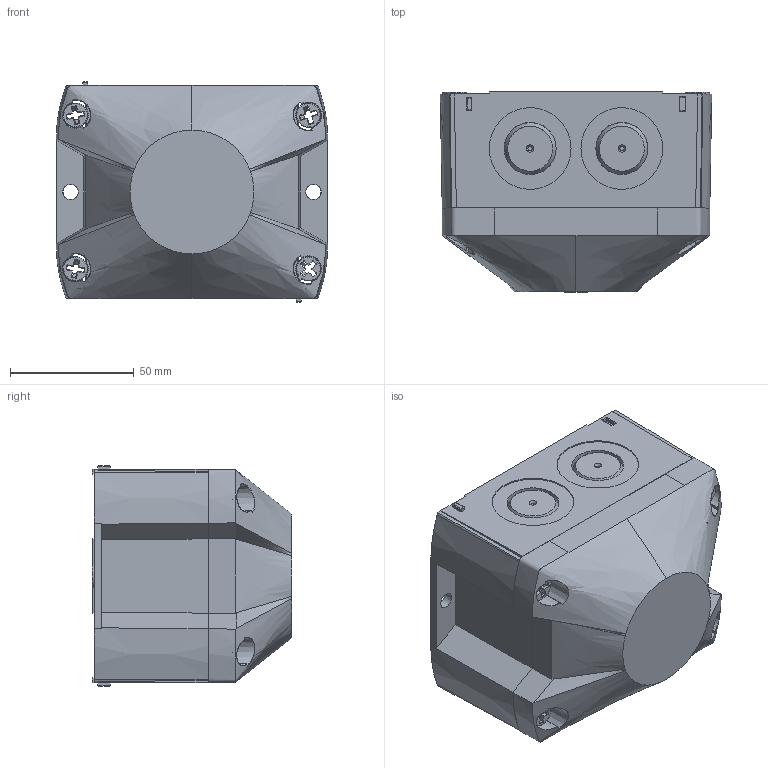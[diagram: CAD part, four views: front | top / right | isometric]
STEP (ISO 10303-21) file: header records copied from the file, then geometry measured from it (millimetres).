
FILE_DESCRIPTION (( 'STEP AP214' ), '1' );
FILE_NAME ('PY_X_S-05 _step.STEP', '2015-02-12T08:51:09', ( '' ), ( '' ), 'SwSTEP 2.0', 'SolidWorks 2012', '' );
FILE_SCHEMA (( 'AUTOMOTIVE_DESIGN' ));
Length unit declared in the file: millimetre
Products named in the file (1): PY_X_S-05 _step
Bounding box: 109.61 x 80.6 x 89 mm (x, y, z)
Surface area: 57910.1 mm2 (no closed solid volume)
Topology: 0 solids, 25 shells, 293 faces, 1132 edges, 864 vertices
Faces by surface type: plane 149, cylinder 59, cone 52, bspline 28, torus 5
Entity records: 18359 total; most frequent: CARTESIAN_POINT 6445, DIRECTION 1630, ORIENTED_EDGE 1605, EDGE_CURVE 1109, VERTEX_POINT 856, AXIS2_PLACEMENT_3D 547, LINE 536, VECTOR 536
